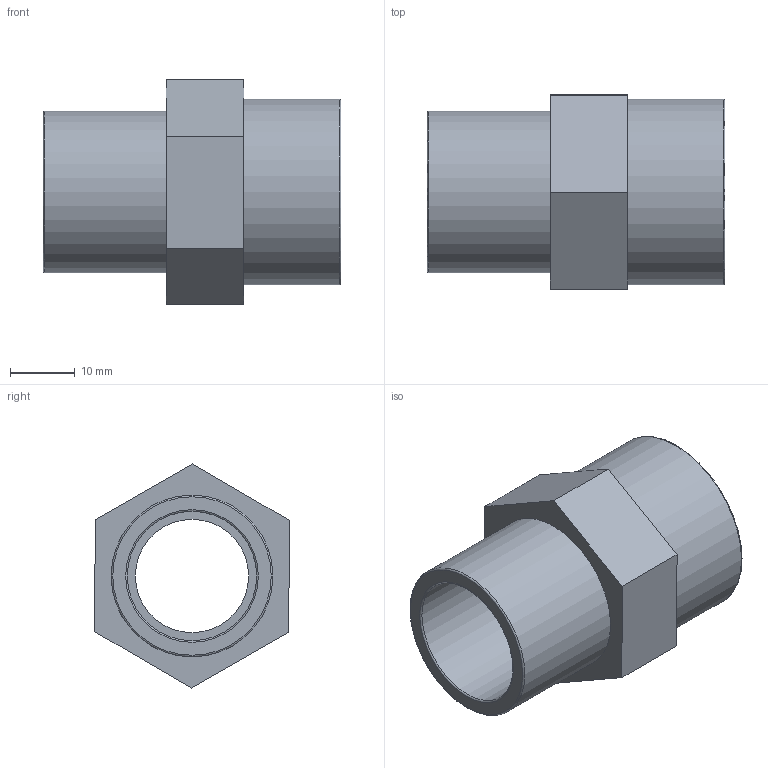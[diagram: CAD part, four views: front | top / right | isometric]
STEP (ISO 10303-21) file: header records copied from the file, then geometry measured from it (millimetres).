
FILE_DESCRIPTION(/* description */ ('PLASSON ADAPTOR SOCKET M.F. 25-3/4" CEM-THR'),/* implementation_level */ '2;1');
FILE_NAME(/* name */ 'C:\Dropbox\KIMPROJECTS-Inventor\99-16-3568-Processing\PVC Catalog 2017\050302\050302025007.ipt.stp',/* time_stamp */ '2017-12-07T15:54:00+02:00',/* author */ ('KIM'),/* organization */ (''),/* preprocessor_version */ 'ST-DEVELOPER v15.6',/* originating_system */ 'Autodesk Inventor 2015',/* authorisation */ '');
FILE_SCHEMA (('AUTOMOTIVE_DESIGN { 1 0 10303 214 3 1 1 }'));
Length unit declared in the file: millimetre
Products named in the file (1): 050302025007
Bounding box: 46 x 30.05 x 34.64 mm (x, y, z)
Volume: 11659.3 mm3; surface area: 8233.7 mm2
Topology: 1 solids, 1 shells, 21 faces, 41 edges, 26 vertices
Faces by surface type: plane 12, cylinder 5, torus 4
Full cylindrical faces by diameter (mm): 17.5 x1, 20 x1, 24.117 x1, 25 x1, 28.75 x1
Entity records: 520 total; most frequent: DIRECTION 90, CARTESIAN_POINT 80, ORIENTED_EDGE 64, EDGE_LOOP 36, AXIS2_PLACEMENT_3D 36, EDGE_CURVE 32, VERTEX_POINT 26, FACE_OUTER_BOUND 21
